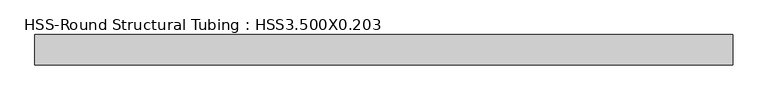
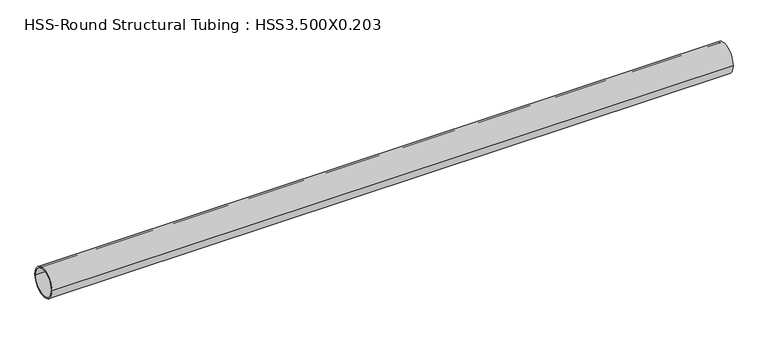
"""IFC4 building model written with IfcOpenShell, lengths in millimetres: member geometry, HSS-Round Structural Tubing : HSS3.500X0.203."""

from ifc_helpers import new_model, si_unit, point, frame, origin, origin_2d, place, context, project, spatial, circle_curve, trimmed, segment, composite_curve, outline, extrude, source, transform, mapped, element, save


def hss_round_structural_tubing_hss3_500x0_203_a7163eb7(model_context):
    return source(origin(), model_context, "Body", "SweptSolid", [
        extrude(outline(composite_curve([segment(trimmed(circle_curve(origin_2d(), 44.45), [point((-44.45, 0.0))], [point((44.45, 0.0))], False, "CARTESIAN"), True, "CONTINUOUS"), segment(trimmed(circle_curve(origin_2d(), 44.45), [point((44.45, 0.0))], [point((-44.45, 0.0))], False, "CARTESIAN"), True, "CONTINUOUS")], self_intersect=False), holes=[composite_curve([segment(trimmed(circle_curve(origin_2d(), 39.6494), [point((39.6494, 0.0))], [point((-39.6494, 0.0))], True, "CARTESIAN"), True, "CONTINUOUS"), segment(trimmed(circle_curve(origin_2d(), 39.6494), [point((-39.6494, 0.0))], [point((39.6494, 0.0))], True, "CARTESIAN"), True, "CONTINUOUS")], self_intersect=False)]), frame((-1022.994749, 0.0, 0.0), z_axis=(1.0, 0.0, 0.0), x_axis=(0.0, 1.0, 0.0)), (0.0, 0.0, 1.0), 2045.9894979),
    ])


if __name__ == "__main__":
    model = new_model("IFC4")
    model_context = context("Model", 3, world=origin())
    ifc_project = project(units=[si_unit("LENGTHUNIT", "METRE", prefix="MILLI")], contexts=[model_context])
    site = spatial("IfcSite", under=ifc_project)
    building = spatial("IfcBuilding", under=site)
    placement = place(None, origin())
    hss_round_structural_tubing_hss3_500x0_203_shape = hss_round_structural_tubing_hss3_500x0_203_a7163eb7(model_context)
    element("IfcMember", 1, ObjectType="HSS-Round Structural Tubing : HSS3.500X0.203", at=placement, inside=building, context=model_context, shape_type="MappedRepresentation", body=[
        mapped(hss_round_structural_tubing_hss3_500x0_203_shape, transform((0.0, 0.0, 0.0), x_axis=(1.0, 0.0, 0.0), y_axis=(0.0, 1.0, 0.0), z_axis=(0.0, 0.0, 1.0))),
    ])
    save(model, "model.ifc")
